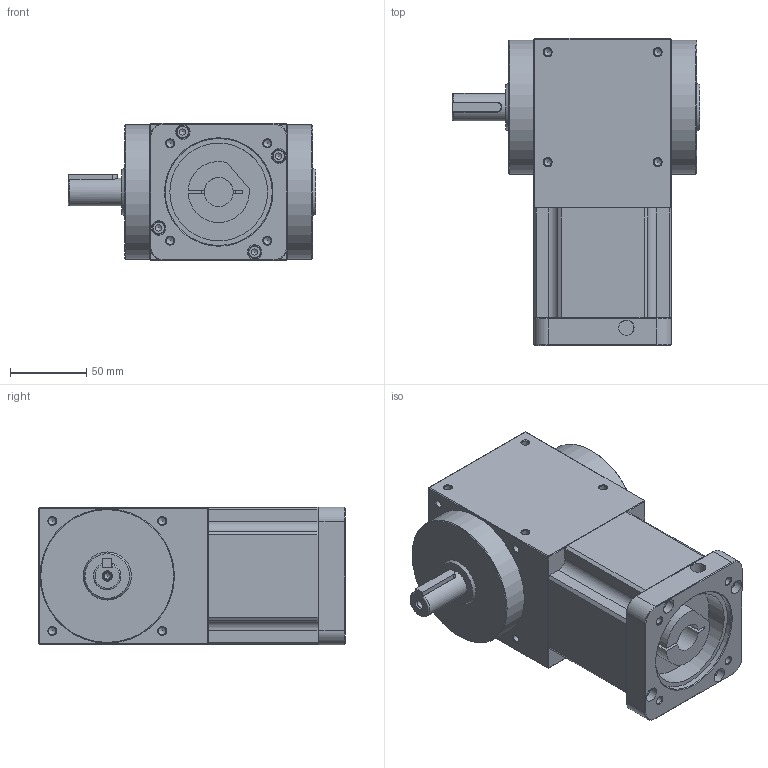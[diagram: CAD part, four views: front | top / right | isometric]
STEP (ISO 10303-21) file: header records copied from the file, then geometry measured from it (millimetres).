
FILE_DESCRIPTION((''),'2;1');
FILE_NAME('D:\유성\SBT 베벨기어박스\최종도면모음\3D\SBT090\SBT090PLS003~010K.stp','2014-05-20T10:35:37',('nagyu'),(''),'Autodesk Inventor 2013','Autodesk Inventor 2013','');
FILE_SCHEMA(('AUTOMOTIVE_DESIGN { 1 0 10303 214 1 1 1 1 }'));
Length unit declared in the file: millimetre
Products named in the file (1): SBT090PLS003~010K_Shrinkwrap_1
Bounding box: 162 x 201 x 90 mm (x, y, z)
Volume: 1704556.1 mm3; surface area: 116678.4 mm2
Topology: 1 solids, 5 shells, 315 faces, 787 edges, 473 vertices
Faces by surface type: plane 135, cylinder 91, cone 75, torus 9, bspline 5
Full cylindrical faces by diameter (mm): 4.134 x1, 4.917 x44, 5 x4, 5.5 x5, 6 x2, 8.5 x4, 9.5 x4, 10 x1, 18 x1, 19 x1, 22 x1, 64 x1, 70 x1, 88 x2
Entity records: 8319 total; most frequent: CARTESIAN_POINT 1653, DIRECTION 1440, ORIENTED_EDGE 1144, AXIS2_PLACEMENT_3D 592, EDGE_CURVE 572, EDGE_LOOP 489, VERTEX_POINT 405, FACE_OUTER_BOUND 315
